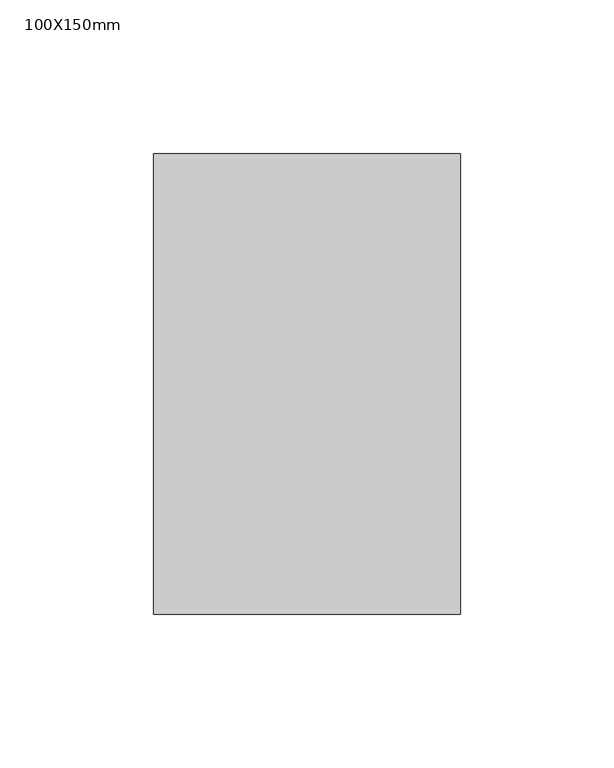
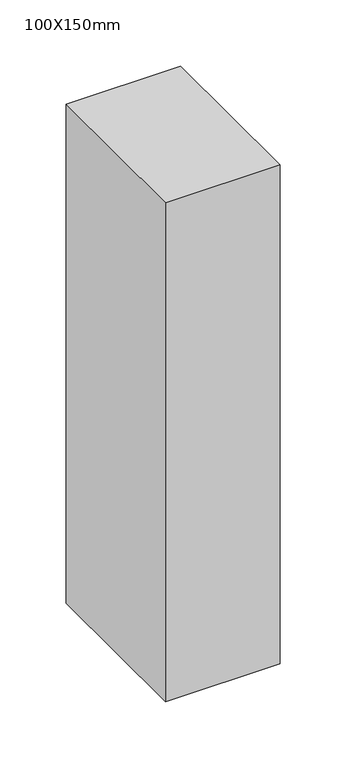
"""IFC4 building model written with IfcOpenShell, lengths in millimetres: member geometry, 矩形竖梃 : 100X150mm."""

from ifc_helpers import new_model, si_unit, frame, origin, place, context, project, spatial, polyline, outline, extrude, source, transform, mapped, element, save


def member_100x150mm_679617a7(model_context):
    return source(origin(), model_context, "Body", "SweptSolid", [
        extrude(outline(polyline([(0.0, 75.0), (0.0, -75.0), (-100.0, -75.0), (-100.0, 75.0), (0.0, 75.0)])), frame((0.0, 0.0, -460.0), z_axis=(0.0, 0.0, 1.0), x_axis=(1.0, 0.0, 0.0)), (0.0, 0.0, 1.0), 460.0),
    ])


if __name__ == "__main__":
    model = new_model("IFC4")
    model_context = context("Model", 3, world=origin())
    ifc_project = project(units=[si_unit("LENGTHUNIT", "METRE", prefix="MILLI")], contexts=[model_context])
    site = spatial("IfcSite", under=ifc_project)
    building = spatial("IfcBuilding", under=site)
    placement = place(None, origin())
    member_100x150mm_shape = member_100x150mm_679617a7(model_context)
    element("IfcMember", 1, ObjectType="矩形竖梃 : 100X150mm", at=placement, inside=building, context=model_context, shape_type="MappedRepresentation", body=[
        mapped(member_100x150mm_shape, transform((0.0, 0.0, 0.0), x_axis=(1.0, 0.0, 0.0), y_axis=(0.0, 1.0, 0.0), z_axis=(0.0, 0.0, 1.0))),
    ])
    save(model, "model.ifc")
